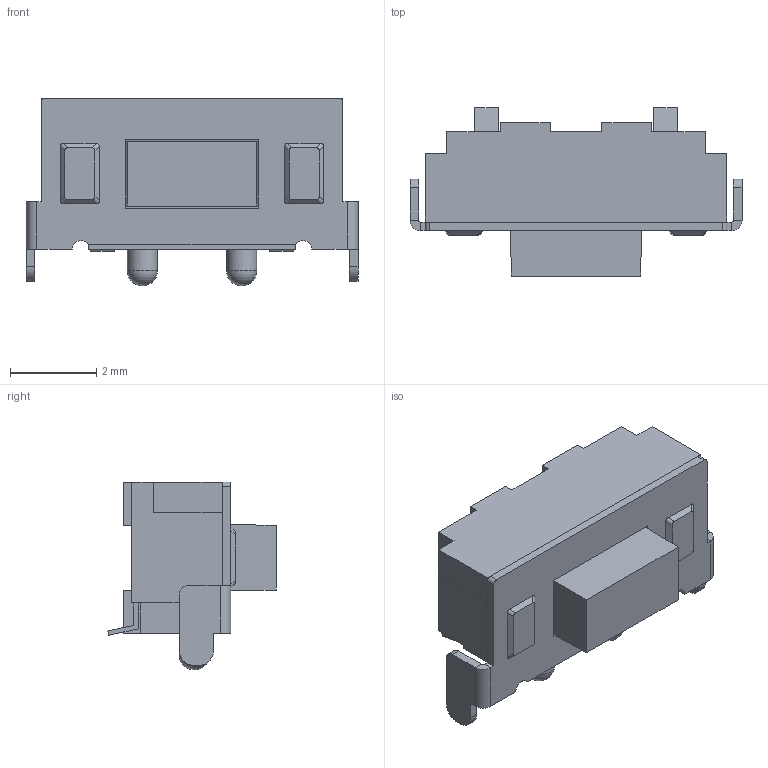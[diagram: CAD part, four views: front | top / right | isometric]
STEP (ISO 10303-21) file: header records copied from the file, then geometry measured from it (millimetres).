
FILE_DESCRIPTION((''),'2;1');
FILE_NAME('JQD3570-C0351-ADG-1-105_ASM','2026-05-21T19:06:05',('Admin'),(''),'CREO PARAMETRIC BY PTC INC, 2019224','CREO PARAMETRIC BY PTC INC, 2019224','');
FILE_SCHEMA(('AUTOMOTIVE_DESIGN { 1 0 10303 214 1 1 1 1 }'));
Length unit declared in the file: millimetre
Products named in the file (3): JQD3570-C0351-ADG-1-105_01; JQD3570-C0351-ADG-1-105_04; JQD3570-C0351-ADG-1-105_ASM
Assembly tree (2 placements, depth 2):
  JQD3570-C0351-ADG-1-105_ASM
    JQD3570-C0351-ADG-1-105_01
    JQD3570-C0351-ADG-1-105_04
Bounding box: 7.7 x 3.91 x 4.35 mm (x, y, z)
Volume: 55.4 mm3; surface area: 162.6 mm2
Topology: 2 solids, 2 shells, 143 faces, 378 edges, 246 vertices
Faces by surface type: plane 113, cylinder 26, sphere 4
Entity records: 5472 total; most frequent: CARTESIAN_POINT 815, ORIENTED_EDGE 744, DIRECTION 702, EDGE_CURVE 372, VECTOR 318, LINE 318, PRESENTATION_STYLE_ASSIGNMENT 257, VERTEX_POINT 242
